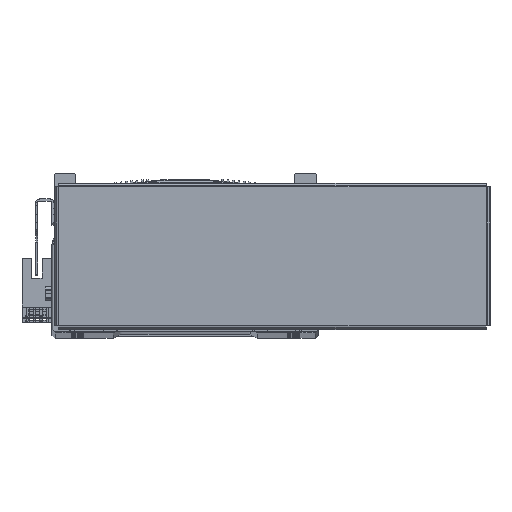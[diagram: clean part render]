
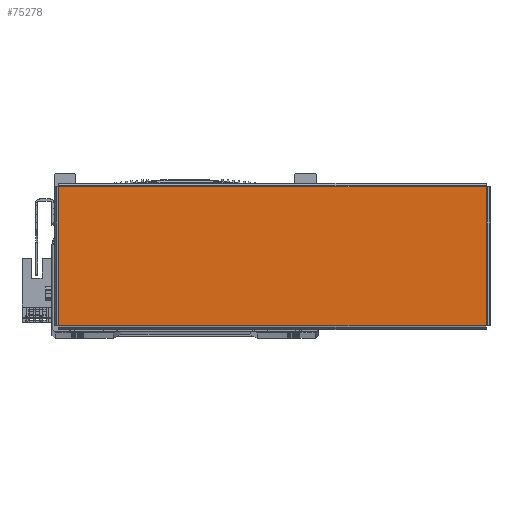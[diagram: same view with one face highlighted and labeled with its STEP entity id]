
A CAD part, top view. The second image highlights one B-rep face of the part: STEP entity #75278.
In plain terms, the highlighted planar face has unit normal (0, 0, 1) as drawn and (0, 0, -1) by its records, which use the part's own axes.
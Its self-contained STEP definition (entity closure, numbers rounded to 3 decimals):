
#11162 = EDGE_CURVE ( 'NONE', #36348, #36387, #62002, .T. ) ;
#11171 = EDGE_CURVE ( 'NONE', #36400, #36348, #62123, .T. ) ;
#11242 = EDGE_CURVE ( 'NONE', #36428, #36400, #59544, .T. ) ;
#11254 = EDGE_CURVE ( 'NONE', #36387, #36428, #59422, .T. ) ;
#25032 = ORIENTED_EDGE ( 'NONE', *, *, #11171, .T. ) ;
#25064 = ORIENTED_EDGE ( 'NONE', *, *, #11242, .T. ) ;
#25067 = ORIENTED_EDGE ( 'NONE', *, *, #11162, .T. ) ;
#25069 = ORIENTED_EDGE ( 'NONE', *, *, #11254, .T. ) ;
#30360 = EDGE_LOOP ( 'NONE', ( #25032, #25067, #25069, #25064 ) ) ;
#32825 = FACE_OUTER_BOUND ( 'NONE', #30360, .T. ) ;
#34423 = DIRECTION ( 'NONE',  ( 1., 0., 0. ) ) ;
#34446 = PLANE ( 'NONE',  #56721 ) ;
#34447 = DIRECTION ( 'NONE',  ( 0., 0., 1. ) ) ;
#34466 = CARTESIAN_POINT ( 'NONE',  ( 0., 0., -1. ) ) ;
#36348 = VERTEX_POINT ( 'NONE', #40773 ) ;
#36387 = VERTEX_POINT ( 'NONE', #40772 ) ;
#36400 = VERTEX_POINT ( 'NONE', #40809 ) ;
#36428 = VERTEX_POINT ( 'NONE', #40838 ) ;
#40772 = CARTESIAN_POINT ( 'NONE',  ( -97.863, -31.763, -1. ) ) ;
#40773 = CARTESIAN_POINT ( 'NONE',  ( 97.863, -31.763, -1. ) ) ;
#40809 = CARTESIAN_POINT ( 'NONE',  ( 97.863, 31.763, -1. ) ) ;
#40838 = CARTESIAN_POINT ( 'NONE',  ( -97.863, 31.763, -1. ) ) ;
#56721 = AXIS2_PLACEMENT_3D ( 'NONE', #34466, #34447, #34423 ) ;
#59422 = LINE ( 'NONE', #95805, #59425 ) ;
#59425 = VECTOR ( 'NONE', #95777, 1000. ) ;
#59458 = VECTOR ( 'NONE', #95768, 1000. ) ;
#59544 = LINE ( 'NONE', #95791, #59458 ) ;
#61922 = VECTOR ( 'NONE', #95604, 1000. ) ;
#62002 = LINE ( 'NONE', #95623, #61922 ) ;
#62123 = LINE ( 'NONE', #95591, #62144 ) ;
#62144 = VECTOR ( 'NONE', #95592, 1000. ) ;
#75278 = ADVANCED_FACE ( 'NONE', ( #32825 ), #34446, .F. ) ;
#95591 = CARTESIAN_POINT ( 'NONE',  ( 97.863, 31.793, -1. ) ) ;
#95592 = DIRECTION ( 'NONE',  ( 0., -1., 0. ) ) ;
#95604 = DIRECTION ( 'NONE',  ( -1., 0., 0. ) ) ;
#95623 = CARTESIAN_POINT ( 'NONE',  ( 97.893, -31.763, -1. ) ) ;
#95768 = DIRECTION ( 'NONE',  ( 1., 0., 0. ) ) ;
#95777 = DIRECTION ( 'NONE',  ( 0., 1., 0. ) ) ;
#95791 = CARTESIAN_POINT ( 'NONE',  ( -97.893, 31.763, -1. ) ) ;
#95805 = CARTESIAN_POINT ( 'NONE',  ( -97.863, -31.793, -1. ) ) ;
